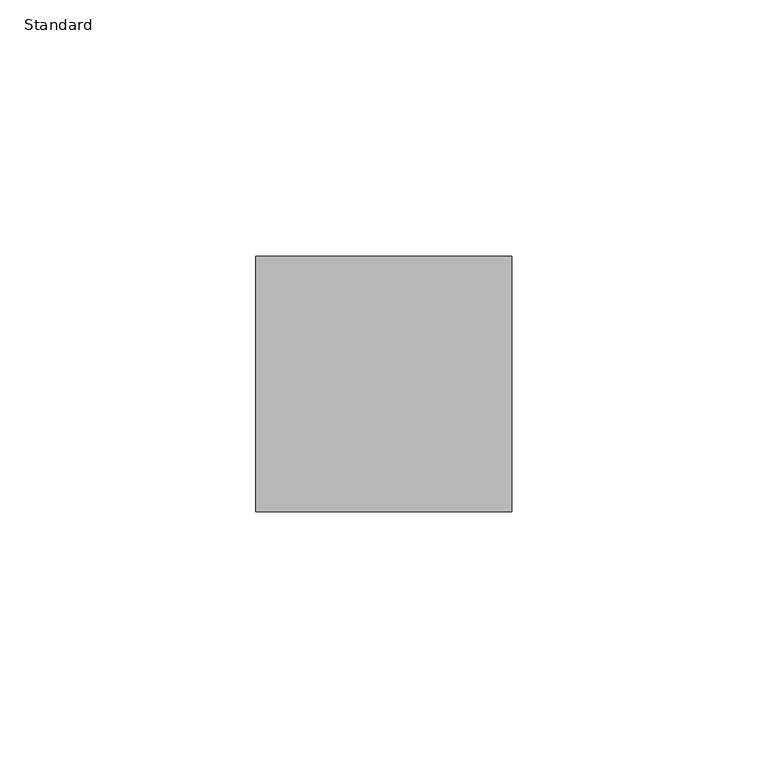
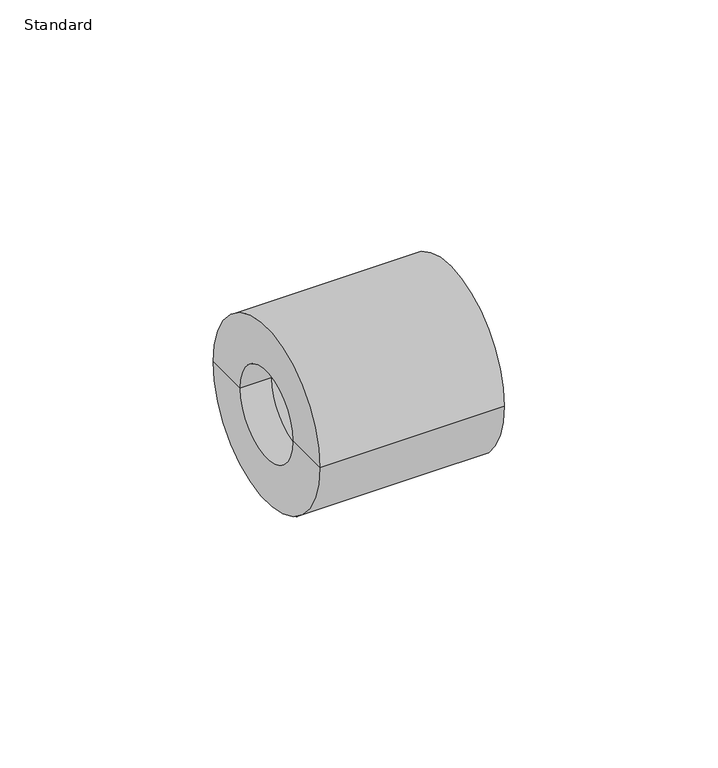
"""IFC4 building model written with IfcOpenShell, lengths in millimetres: pipe fitting geometry, Durapipe_PipeFitting_PVC_ReducingBush : Standard."""

from ifc_helpers import new_model, si_unit, frame, origin, place, context, project, spatial, polyline, circle_curve, source, transform, mapped, element, save
from ifc_brep_helpers import plane_surface, cylinder_surface, revolved_surface, advanced_brep


def standard_fc0df1e9(model_context):
    return source(origin(), model_context, "Body", "AdvancedBrep", [
        advanced_brep(
        [(-8.5, -12.5, 0.0), (-8.5, 12.5, 0.0), (-8.5, 25.0, 0.0), (-8.5, -25.0, 0.0), (0.0, -12.5, 0.0), (0.0, 12.5, 0.0), (0.0, -16.0, 0.0), (0.0, 16.0, 0.0), (41.5, -16.0, 0.0), (41.5, 16.0, 0.0), (41.5, -25.0, 0.0), (41.5, 25.0, 0.0)],
        [
            (0, 1, circle_curve(frame((-8.5, 0.0, 0.0), z_axis=(1.0, 0.0, 0.0), x_axis=(0.0, 1.0, 0.0)), 12.5)),
            (1, 2),
            (2, 3, circle_curve(frame((-8.5, 0.0, 0.0), z_axis=(-1.0, 0.0, 0.0), x_axis=(0.0, 1.0, 0.0)), 25.0)),
            (3, 0),
            (1, 0, circle_curve(frame((-8.5, 0.0, 0.0), z_axis=(1.0, 0.0, 0.0), x_axis=(0.0, 1.0, 0.0)), 12.5)),
            (3, 2, circle_curve(frame((-8.5, 0.0, 0.0), z_axis=(-1.0, 0.0, 0.0), x_axis=(0.0, 1.0, 0.0)), 25.0)),
            (4, 5, circle_curve(frame((0.0, 0.0, 0.0), z_axis=(1.0, 0.0, 0.0), x_axis=(0.0, 1.0, 0.0)), 12.5)),
            (5, 1),
            (0, 4),
            (5, 4, circle_curve(frame((0.0, 0.0, 0.0), z_axis=(1.0, 0.0, 0.0), x_axis=(0.0, 1.0, 0.0)), 12.5)),
            (6, 7, circle_curve(frame((0.0, 0.0, 0.0), z_axis=(1.0, 0.0, 0.0), x_axis=(0.0, 1.0, 0.0)), 16.0)),
            (7, 5),
            (4, 6),
            (7, 6, circle_curve(frame((0.0, 0.0, 0.0), z_axis=(1.0, 0.0, 0.0), x_axis=(0.0, 1.0, 0.0)), 16.0)),
            (8, 9, circle_curve(frame((41.5, 0.0, 0.0), z_axis=(1.0, 0.0, 0.0), x_axis=(0.0, 1.0, 0.0)), 16.0)),
            (9, 7),
            (6, 8),
            (9, 8, circle_curve(frame((41.5, 0.0, 0.0), z_axis=(1.0, 0.0, 0.0), x_axis=(0.0, 1.0, 0.0)), 16.0)),
            (10, 11, circle_curve(frame((41.5, 0.0, 0.0), z_axis=(1.0, 0.0, 0.0), x_axis=(0.0, 1.0, 0.0)), 25.0)),
            (11, 9),
            (8, 10),
            (11, 10, circle_curve(frame((41.5, 0.0, 0.0), z_axis=(1.0, 0.0, 0.0), x_axis=(0.0, 1.0, 0.0)), 25.0)),
            (2, 11),
            (10, 3),
        ],
        [
            plane_surface(frame((-8.5, 0.0, 0.0), z_axis=(-1.0, 0.0, 0.0), x_axis=(0.0, 1.0, 0.0))),
            revolved_surface(polyline([(-8.5, 12.5, 0.0), (0.0, 12.5, 0.0)]), (2027.5, 0.0, 0.0), (-1.0, 0.0, 0.0)),
            plane_surface(frame((0.0, 0.0, 0.0), z_axis=(1.0, 0.0, 0.0), x_axis=(0.0, 1.0, 0.0))),
            revolved_surface(polyline([(0.0, 16.0, 0.0), (41.5, 16.0, 0.0)]), (2027.5, 0.0, 0.0), (-1.0, 0.0, 0.0)),
            plane_surface(frame((41.5, 0.0, 0.0), z_axis=(1.0, 0.0, 0.0), x_axis=(0.0, 1.0, 0.0))),
            cylinder_surface(frame((2027.5, 0.0, 0.0), z_axis=(-1.0, 0.0, 0.0), x_axis=(0.0, 1.0, 0.0)), 25.0),
        ],
        [
            (0, [[1, 2, 3, 4]]),
            (0, [[5, -4, 6, -2]]),
            (1, [[7, 8, -1, 9]]),
            (1, [[10, -9, -5, -8]]),
            (2, [[11, 12, -7, 13]]),
            (2, [[14, -13, -10, -12]]),
            (3, [[15, 16, -11, 17]]),
            (3, [[18, -17, -14, -16]]),
            (4, [[19, 20, -15, 21]]),
            (4, [[22, -21, -18, -20]]),
            (5, [[-3, 23, -19, 24]]),
            (5, [[-6, -24, -22, -23]]),
        ],
    ),
    ])


if __name__ == "__main__":
    model = new_model("IFC4")
    model_context = context("Model", 3, world=origin())
    ifc_project = project(units=[si_unit("LENGTHUNIT", "METRE", prefix="MILLI")], contexts=[model_context])
    site = spatial("IfcSite", under=ifc_project)
    building = spatial("IfcBuilding", under=site)
    placement = place(None, origin())
    standard_shape = standard_fc0df1e9(model_context)
    element("IfcPipeFitting", 1, ObjectType="Durapipe_PipeFitting_PVC_ReducingBush : Standard", at=placement, inside=building, context=model_context, shape_type="MappedRepresentation", body=[
        mapped(standard_shape, transform((0.0, 0.0, 0.0), x_axis=(1.0, 0.0, 0.0), y_axis=(0.0, 1.0, 0.0), z_axis=(0.0, 0.0, 1.0))),
    ])
    save(model, "model.ifc")
